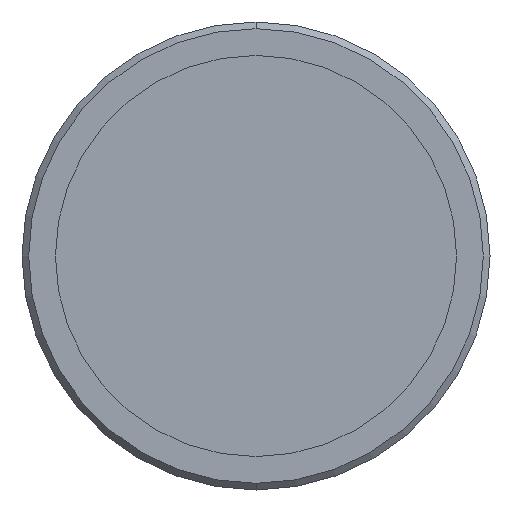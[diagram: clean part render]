
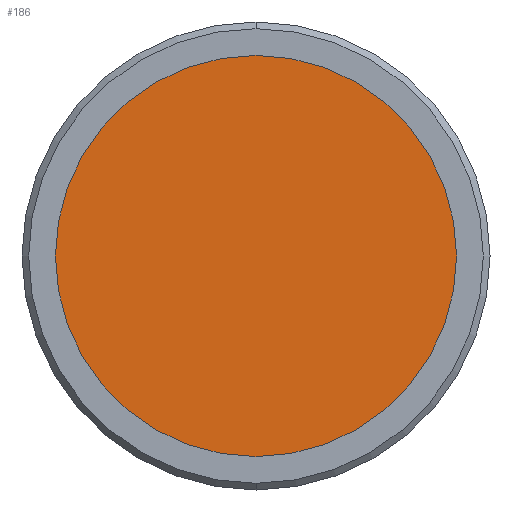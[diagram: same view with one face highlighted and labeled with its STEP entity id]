
A CAD part, front view. The second image highlights one B-rep face of the part: STEP entity #186.
In plain terms, the highlighted planar face has unit normal (0, -1, 0).
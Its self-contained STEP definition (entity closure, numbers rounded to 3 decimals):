
#71 = VERTEX_POINT ( 'NONE', #223 ) ;
#116 = AXIS2_PLACEMENT_3D ( 'NONE', #896, #900, #942 ) ;
#186 = ADVANCED_FACE ( 'NONE', ( #743 ), #1003, .T. ) ;
#223 = CARTESIAN_POINT ( 'NONE',  ( 0., -9., -15. ) ) ;
#263 = AXIS2_PLACEMENT_3D ( 'NONE', #917, #851, #848 ) ;
#276 = AXIS2_PLACEMENT_3D ( 'NONE', #1085, #1099, #1102 ) ;
#357 = VERTEX_POINT ( 'NONE', #762 ) ;
#635 = EDGE_CURVE ( 'NONE', #71, #357, #923, .T. ) ;
#689 = CIRCLE ( 'NONE', #276, 15. ) ;
#743 = FACE_OUTER_BOUND ( 'NONE', #1047, .T. ) ;
#762 = CARTESIAN_POINT ( 'NONE',  ( 0., -9., 15. ) ) ;
#782 = EDGE_CURVE ( 'NONE', #357, #71, #689, .T. ) ;
#809 = ORIENTED_EDGE ( 'NONE', *, *, #782, .F. ) ;
#843 = ORIENTED_EDGE ( 'NONE', *, *, #635, .F. ) ;
#848 = DIRECTION ( 'NONE',  ( 0., 0., -1. ) ) ;
#851 = DIRECTION ( 'NONE',  ( 0., -1., 0. ) ) ;
#896 = CARTESIAN_POINT ( 'NONE',  ( 0., -9., 0. ) ) ;
#900 = DIRECTION ( 'NONE',  ( 0., 1., 0. ) ) ;
#917 = CARTESIAN_POINT ( 'NONE',  ( 0., -9., 0. ) ) ;
#923 = CIRCLE ( 'NONE', #116, 15. ) ;
#942 = DIRECTION ( 'NONE',  ( 0., 0., 1. ) ) ;
#1003 = PLANE ( 'NONE',  #263 ) ;
#1047 = EDGE_LOOP ( 'NONE', ( #809, #843 ) ) ;
#1085 = CARTESIAN_POINT ( 'NONE',  ( 0., -9., 0. ) ) ;
#1099 = DIRECTION ( 'NONE',  ( 0., 1., 0. ) ) ;
#1102 = DIRECTION ( 'NONE',  ( 0., 0., 1. ) ) ;
